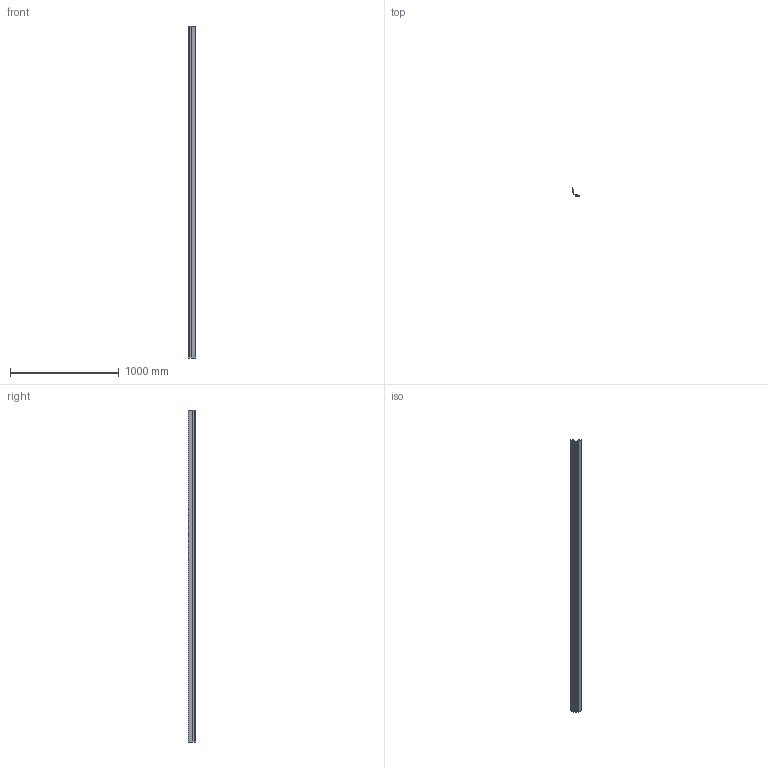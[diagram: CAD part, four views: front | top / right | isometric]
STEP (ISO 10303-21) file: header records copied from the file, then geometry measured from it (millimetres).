
FILE_DESCRIPTION (( 'STEP AP203' ), '1' );
FILE_NAME ('M22F.STEP', '2018-06-18T21:03:27', ( 'Michael Moliner' ), ( '' ), 'SwSTEP 2.0', 'SolidWorks 2018', '' );
FILE_SCHEMA (( 'CONFIG_CONTROL_DESIGN' ));
Length unit declared in the file: inch
Products named in the file (2): M22F
Bounding box: 71.12 x 71.12 x 3048 mm (x, y, z)
Volume: 353319.5 mm3; surface area: 1394350.3 mm2
Topology: 1 solids, 1 shells, 30 faces, 84 edges, 56 vertices
Faces by surface type: plane 20, cylinder 10
Entity records: 1125 total; most frequent: CARTESIAN_POINT 172, DIRECTION 168, ORIENTED_EDGE 168, EDGE_CURVE 84, VECTOR 64, LINE 64, VERTEX_POINT 56, AXIS2_PLACEMENT_3D 52
